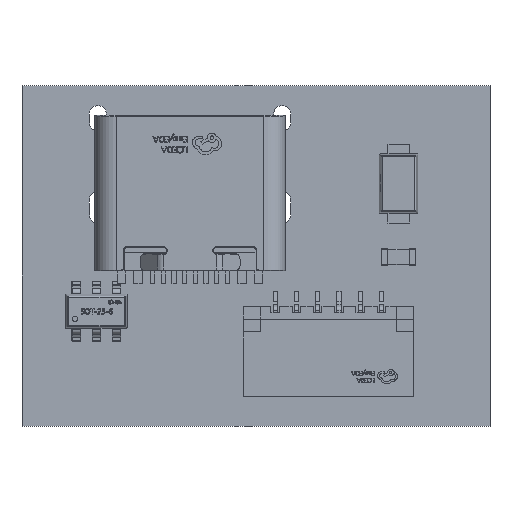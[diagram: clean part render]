
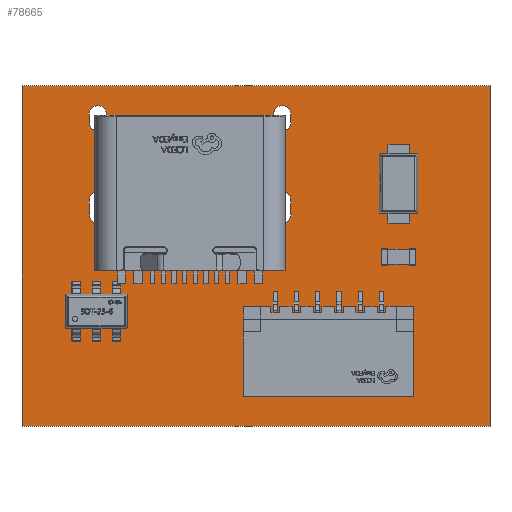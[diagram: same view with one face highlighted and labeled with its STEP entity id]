
A CAD part, top view. The second image highlights one B-rep face of the part: STEP entity #78665.
In plain terms, the highlighted planar face has unit normal (0, 0, 1).
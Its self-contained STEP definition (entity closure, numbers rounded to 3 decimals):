
#78387 = VERTEX_POINT('',#78388);
#78388 = CARTESIAN_POINT('',(114.1,-116.,1.13));
#78394 = EDGE_CURVE('',#78387,#78395,#78397,.T.);
#78395 = VERTEX_POINT('',#78396);
#78396 = CARTESIAN_POINT('',(92.1,-116.,1.13));
#78397 = LINE('',#78398,#78399);
#78398 = CARTESIAN_POINT('',(114.1,-116.,1.13));
#78399 = VECTOR('',#78400,1.);
#78400 = DIRECTION('',(-1.,0.,0.));
#78427 = VERTEX_POINT('',#78428);
#78428 = CARTESIAN_POINT('',(114.1,-100.,1.13));
#78434 = EDGE_CURVE('',#78427,#78387,#78435,.T.);
#78435 = LINE('',#78436,#78437);
#78436 = CARTESIAN_POINT('',(114.1,-100.,1.13));
#78437 = VECTOR('',#78438,1.);
#78438 = DIRECTION('',(0.,-1.,0.));
#78456 = EDGE_CURVE('',#78395,#78457,#78459,.T.);
#78457 = VERTEX_POINT('',#78458);
#78458 = CARTESIAN_POINT('',(92.1,-100.,1.13));
#78459 = LINE('',#78460,#78461);
#78460 = CARTESIAN_POINT('',(92.1,-116.,1.13));
#78461 = VECTOR('',#78462,1.);
#78462 = DIRECTION('',(0.,1.,0.));
#78665 = ADVANCED_FACE('',(#78666,#78677,#78713,#78724,#78735,#78771,
    #78807),#78843,.T.);
#78666 = FACE_BOUND('',#78667,.T.);
#78667 = EDGE_LOOP('',(#78668,#78669,#78670,#78676));
#78668 = ORIENTED_EDGE('',*,*,#78394,.F.);
#78669 = ORIENTED_EDGE('',*,*,#78434,.F.);
#78670 = ORIENTED_EDGE('',*,*,#78671,.F.);
#78671 = EDGE_CURVE('',#78457,#78427,#78672,.T.);
#78672 = LINE('',#78673,#78674);
#78673 = CARTESIAN_POINT('',(92.1,-100.,1.13));
#78674 = VECTOR('',#78675,1.);
#78675 = DIRECTION('',(1.,0.,0.));
#78676 = ORIENTED_EDGE('',*,*,#78456,.F.);
#78677 = FACE_BOUND('',#78678,.T.);
#78678 = EDGE_LOOP('',(#78679,#78690,#78698,#78707));
#78679 = ORIENTED_EDGE('',*,*,#78680,.T.);
#78680 = EDGE_CURVE('',#78681,#78683,#78685,.T.);
#78681 = VERTEX_POINT('',#78682);
#78682 = CARTESIAN_POINT('',(95.27,-105.36,1.13));
#78683 = VERTEX_POINT('',#78684);
#78684 = CARTESIAN_POINT('',(96.07,-105.36,1.13));
#78685 = CIRCLE('',#78686,0.4);
#78686 = AXIS2_PLACEMENT_3D('',#78687,#78688,#78689);
#78687 = CARTESIAN_POINT('',(95.67,-105.36,1.13));
#78688 = DIRECTION('',(0.,-0.,-1.));
#78689 = DIRECTION('',(1.,0.,-0.));
#78690 = ORIENTED_EDGE('',*,*,#78691,.T.);
#78691 = EDGE_CURVE('',#78683,#78692,#78694,.T.);
#78692 = VERTEX_POINT('',#78693);
#78693 = CARTESIAN_POINT('',(96.07,-106.06,1.13));
#78694 = LINE('',#78695,#78696);
#78695 = CARTESIAN_POINT('',(96.07,-53.03,1.13));
#78696 = VECTOR('',#78697,1.);
#78697 = DIRECTION('',(0.,-1.,0.));
#78698 = ORIENTED_EDGE('',*,*,#78699,.T.);
#78699 = EDGE_CURVE('',#78692,#78700,#78702,.T.);
#78700 = VERTEX_POINT('',#78701);
#78701 = CARTESIAN_POINT('',(95.27,-106.06,1.13));
#78702 = CIRCLE('',#78703,0.4);
#78703 = AXIS2_PLACEMENT_3D('',#78704,#78705,#78706);
#78704 = CARTESIAN_POINT('',(95.67,-106.06,1.13));
#78705 = DIRECTION('',(-0.,0.,-1.));
#78706 = DIRECTION('',(-1.,0.,0.));
#78707 = ORIENTED_EDGE('',*,*,#78708,.T.);
#78708 = EDGE_CURVE('',#78700,#78681,#78709,.T.);
#78709 = LINE('',#78710,#78711);
#78710 = CARTESIAN_POINT('',(95.27,-52.68,1.13));
#78711 = VECTOR('',#78712,1.);
#78712 = DIRECTION('',(-0.,1.,0.));
#78713 = FACE_BOUND('',#78714,.T.);
#78714 = EDGE_LOOP('',(#78715));
#78715 = ORIENTED_EDGE('',*,*,#78716,.T.);
#78716 = EDGE_CURVE('',#78717,#78717,#78719,.T.);
#78717 = VERTEX_POINT('',#78718);
#78718 = CARTESIAN_POINT('',(97.1,-105.51,1.13));
#78719 = CIRCLE('',#78720,0.3);
#78720 = AXIS2_PLACEMENT_3D('',#78721,#78722,#78723);
#78721 = CARTESIAN_POINT('',(97.1,-105.21,1.13));
#78722 = DIRECTION('',(-0.,0.,-1.));
#78723 = DIRECTION('',(-0.,-1.,0.));
#78724 = FACE_BOUND('',#78725,.T.);
#78725 = EDGE_LOOP('',(#78726));
#78726 = ORIENTED_EDGE('',*,*,#78727,.T.);
#78727 = EDGE_CURVE('',#78728,#78728,#78730,.T.);
#78728 = VERTEX_POINT('',#78729);
#78729 = CARTESIAN_POINT('',(102.9,-105.51,1.13));
#78730 = CIRCLE('',#78731,0.3);
#78731 = AXIS2_PLACEMENT_3D('',#78732,#78733,#78734);
#78732 = CARTESIAN_POINT('',(102.9,-105.21,1.13));
#78733 = DIRECTION('',(-0.,0.,-1.));
#78734 = DIRECTION('',(-0.,-1.,0.));
#78735 = FACE_BOUND('',#78736,.T.);
#78736 = EDGE_LOOP('',(#78737,#78748,#78756,#78765));
#78737 = ORIENTED_EDGE('',*,*,#78738,.T.);
#78738 = EDGE_CURVE('',#78739,#78741,#78743,.T.);
#78739 = VERTEX_POINT('',#78740);
#78740 = CARTESIAN_POINT('',(103.93,-105.36,1.13));
#78741 = VERTEX_POINT('',#78742);
#78742 = CARTESIAN_POINT('',(104.73,-105.36,1.13));
#78743 = CIRCLE('',#78744,0.4);
#78744 = AXIS2_PLACEMENT_3D('',#78745,#78746,#78747);
#78745 = CARTESIAN_POINT('',(104.33,-105.36,1.13));
#78746 = DIRECTION('',(0.,-0.,-1.));
#78747 = DIRECTION('',(1.,0.,-0.));
#78748 = ORIENTED_EDGE('',*,*,#78749,.T.);
#78749 = EDGE_CURVE('',#78741,#78750,#78752,.T.);
#78750 = VERTEX_POINT('',#78751);
#78751 = CARTESIAN_POINT('',(104.73,-106.06,1.13));
#78752 = LINE('',#78753,#78754);
#78753 = CARTESIAN_POINT('',(104.73,-53.03,1.13));
#78754 = VECTOR('',#78755,1.);
#78755 = DIRECTION('',(0.,-1.,0.));
#78756 = ORIENTED_EDGE('',*,*,#78757,.T.);
#78757 = EDGE_CURVE('',#78750,#78758,#78760,.T.);
#78758 = VERTEX_POINT('',#78759);
#78759 = CARTESIAN_POINT('',(103.93,-106.06,1.13));
#78760 = CIRCLE('',#78761,0.4);
#78761 = AXIS2_PLACEMENT_3D('',#78762,#78763,#78764);
#78762 = CARTESIAN_POINT('',(104.33,-106.06,1.13));
#78763 = DIRECTION('',(-0.,0.,-1.));
#78764 = DIRECTION('',(-1.,0.,0.));
#78765 = ORIENTED_EDGE('',*,*,#78766,.T.);
#78766 = EDGE_CURVE('',#78758,#78739,#78767,.T.);
#78767 = LINE('',#78768,#78769);
#78768 = CARTESIAN_POINT('',(103.93,-52.68,1.13));
#78769 = VECTOR('',#78770,1.);
#78770 = DIRECTION('',(-0.,1.,0.));
#78771 = FACE_BOUND('',#78772,.T.);
#78772 = EDGE_LOOP('',(#78773,#78784,#78792,#78801));
#78773 = ORIENTED_EDGE('',*,*,#78774,.T.);
#78774 = EDGE_CURVE('',#78775,#78777,#78779,.T.);
#78775 = VERTEX_POINT('',#78776);
#78776 = CARTESIAN_POINT('',(95.27,-101.33,1.13));
#78777 = VERTEX_POINT('',#78778);
#78778 = CARTESIAN_POINT('',(96.07,-101.33,1.13));
#78779 = CIRCLE('',#78780,0.4);
#78780 = AXIS2_PLACEMENT_3D('',#78781,#78782,#78783);
#78781 = CARTESIAN_POINT('',(95.67,-101.33,1.13));
#78782 = DIRECTION('',(0.,-0.,-1.));
#78783 = DIRECTION('',(1.,0.,-0.));
#78784 = ORIENTED_EDGE('',*,*,#78785,.T.);
#78785 = EDGE_CURVE('',#78777,#78786,#78788,.T.);
#78786 = VERTEX_POINT('',#78787);
#78787 = CARTESIAN_POINT('',(96.07,-101.73,1.13));
#78788 = LINE('',#78789,#78790);
#78789 = CARTESIAN_POINT('',(96.07,-50.865,1.13));
#78790 = VECTOR('',#78791,1.);
#78791 = DIRECTION('',(0.,-1.,0.));
#78792 = ORIENTED_EDGE('',*,*,#78793,.T.);
#78793 = EDGE_CURVE('',#78786,#78794,#78796,.T.);
#78794 = VERTEX_POINT('',#78795);
#78795 = CARTESIAN_POINT('',(95.27,-101.73,1.13));
#78796 = CIRCLE('',#78797,0.4);
#78797 = AXIS2_PLACEMENT_3D('',#78798,#78799,#78800);
#78798 = CARTESIAN_POINT('',(95.67,-101.73,1.13));
#78799 = DIRECTION('',(-0.,0.,-1.));
#78800 = DIRECTION('',(-1.,0.,0.));
#78801 = ORIENTED_EDGE('',*,*,#78802,.T.);
#78802 = EDGE_CURVE('',#78794,#78775,#78803,.T.);
#78803 = LINE('',#78804,#78805);
#78804 = CARTESIAN_POINT('',(95.27,-50.665,1.13));
#78805 = VECTOR('',#78806,1.);
#78806 = DIRECTION('',(-0.,1.,0.));
#78807 = FACE_BOUND('',#78808,.T.);
#78808 = EDGE_LOOP('',(#78809,#78820,#78828,#78837));
#78809 = ORIENTED_EDGE('',*,*,#78810,.T.);
#78810 = EDGE_CURVE('',#78811,#78813,#78815,.T.);
#78811 = VERTEX_POINT('',#78812);
#78812 = CARTESIAN_POINT('',(103.93,-101.33,1.13));
#78813 = VERTEX_POINT('',#78814);
#78814 = CARTESIAN_POINT('',(104.73,-101.33,1.13));
#78815 = CIRCLE('',#78816,0.4);
#78816 = AXIS2_PLACEMENT_3D('',#78817,#78818,#78819);
#78817 = CARTESIAN_POINT('',(104.33,-101.33,1.13));
#78818 = DIRECTION('',(0.,-0.,-1.));
#78819 = DIRECTION('',(1.,0.,-0.));
#78820 = ORIENTED_EDGE('',*,*,#78821,.T.);
#78821 = EDGE_CURVE('',#78813,#78822,#78824,.T.);
#78822 = VERTEX_POINT('',#78823);
#78823 = CARTESIAN_POINT('',(104.73,-101.73,1.13));
#78824 = LINE('',#78825,#78826);
#78825 = CARTESIAN_POINT('',(104.73,-50.865,1.13));
#78826 = VECTOR('',#78827,1.);
#78827 = DIRECTION('',(0.,-1.,0.));
#78828 = ORIENTED_EDGE('',*,*,#78829,.T.);
#78829 = EDGE_CURVE('',#78822,#78830,#78832,.T.);
#78830 = VERTEX_POINT('',#78831);
#78831 = CARTESIAN_POINT('',(103.93,-101.73,1.13));
#78832 = CIRCLE('',#78833,0.4);
#78833 = AXIS2_PLACEMENT_3D('',#78834,#78835,#78836);
#78834 = CARTESIAN_POINT('',(104.33,-101.73,1.13));
#78835 = DIRECTION('',(-0.,0.,-1.));
#78836 = DIRECTION('',(-1.,0.,0.));
#78837 = ORIENTED_EDGE('',*,*,#78838,.T.);
#78838 = EDGE_CURVE('',#78830,#78811,#78839,.T.);
#78839 = LINE('',#78840,#78841);
#78840 = CARTESIAN_POINT('',(103.93,-50.665,1.13));
#78841 = VECTOR('',#78842,1.);
#78842 = DIRECTION('',(-0.,1.,0.));
#78843 = PLANE('',#78844);
#78844 = AXIS2_PLACEMENT_3D('',#78845,#78846,#78847);
#78845 = CARTESIAN_POINT('',(0.,0.,1.13));
#78846 = DIRECTION('',(0.,0.,1.));
#78847 = DIRECTION('',(1.,0.,-0.));
